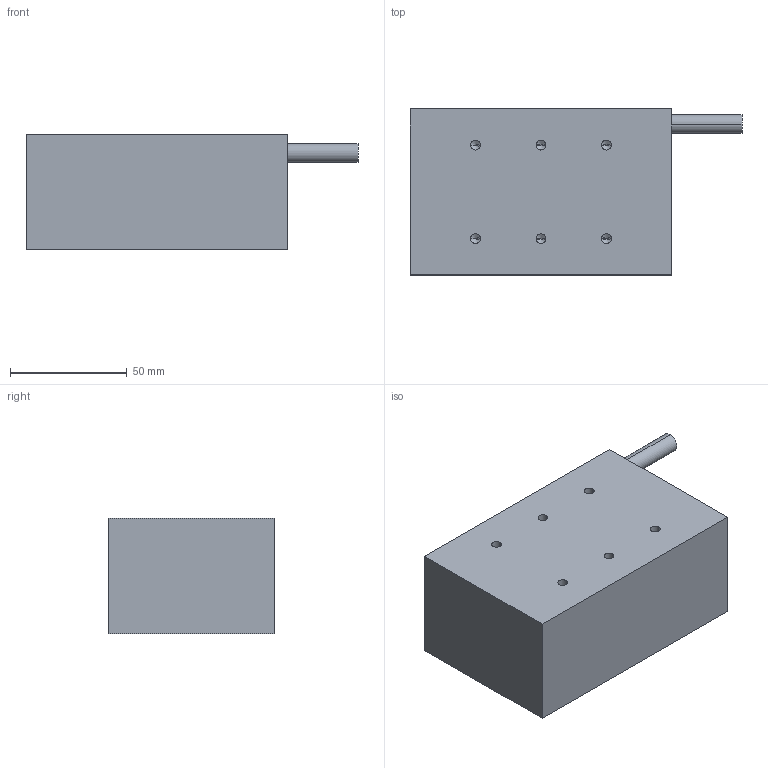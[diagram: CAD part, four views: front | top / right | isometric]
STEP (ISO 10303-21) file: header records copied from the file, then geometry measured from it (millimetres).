
FILE_DESCRIPTION (( 'STEP AP214' ), '1' );
FILE_NAME ('WKM50A雄赽.STEP', '2025-09-05T11:44:35', ( '' ), ( '' ), 'SwSTEP 2.0', 'SolidWorks 2016', '' );
FILE_SCHEMA (( 'AUTOMOTIVE_DESIGN' ));
Length unit declared in the file: millimetre
Products named in the file (1): WKM50A雄赽
Bounding box: 142 x 71 x 49.3 mm (x, y, z)
Volume: 393049.4 mm3; surface area: 35151.1 mm2
Topology: 1 solids, 1 shells, 33 faces, 78 edges, 42 vertices
Faces by surface type: cylinder 14, cone 12, plane 7
Entity records: 1026 total; most frequent: DIRECTION 162, CARTESIAN_POINT 142, ORIENTED_EDGE 132, EDGE_CURVE 66, AXIS2_PLACEMENT_3D 62, VERTEX_POINT 42, EDGE_LOOP 40, LINE 38
